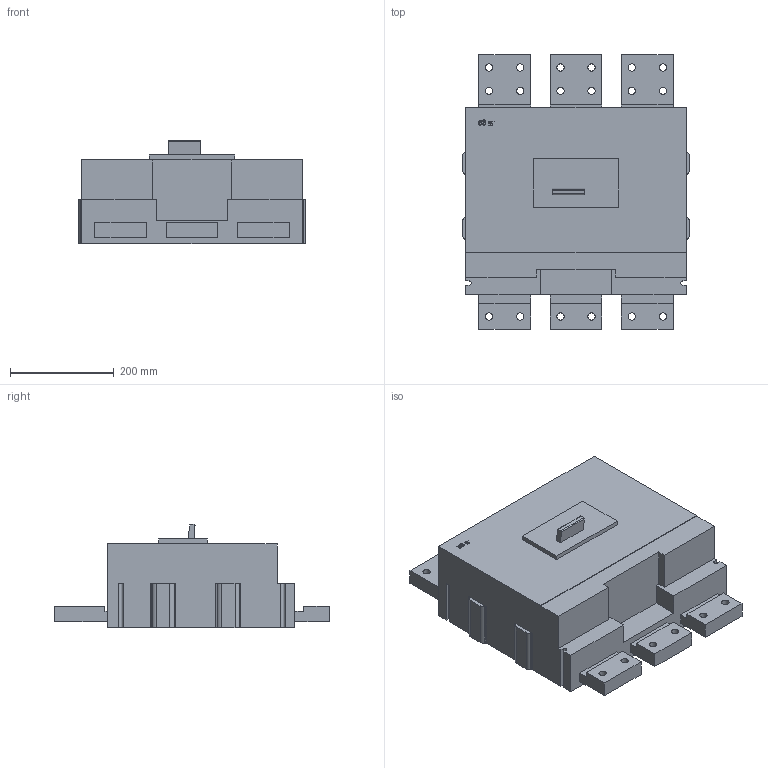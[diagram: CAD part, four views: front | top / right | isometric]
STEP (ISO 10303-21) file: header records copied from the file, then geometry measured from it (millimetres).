
FILE_DESCRIPTION (( 'STEP AP214' ), '1' );
FILE_NAME ('ﾂﾀ 56-43 2000ﾀ.STEP', '2023-02-10T05:15:31', ( '' ), ( '' ), 'SwSTEP 2.0', 'SolidWorks 2018', '' );
FILE_SCHEMA (( 'AUTOMOTIVE_DESIGN' ));
Length unit declared in the file: millimetre
Products named in the file (1): ﾂﾀ 56-43 2000ﾀ
Bounding box: 438 x 530 x 200.19 mm (x, y, z)
Volume: 25032721.6 mm3; surface area: 742599.6 mm2
Topology: 1 solids, 1 shells, 142 faces, 459 edges, 331 vertices
Faces by surface type: plane 102, cylinder 40
Full cylindrical faces by diameter (mm): 14 x18
Entity records: 5379 total; most frequent: CARTESIAN_POINT 1297, ORIENTED_EDGE 846, DIRECTION 759, EDGE_CURVE 423, LINE 313, VERTEX_POINT 313, VECTOR 313, AXIS2_PLACEMENT_3D 223
